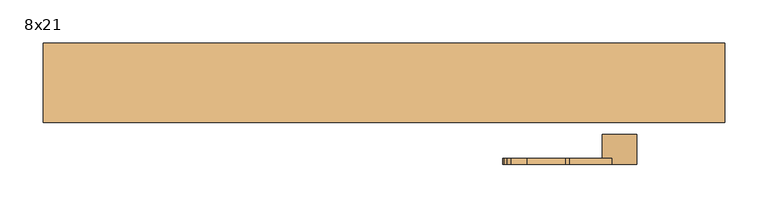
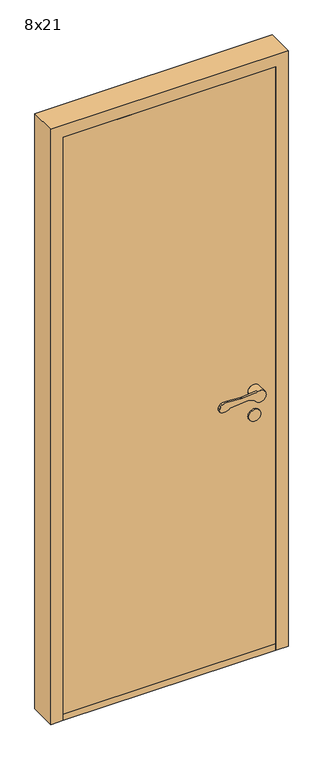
"""IFC4 building model written with IfcOpenShell, lengths in millimetres: door geometry, Innerdør Slett (Diplomat) : 8x21."""

from ifc_helpers import new_model, si_unit, point, frame, frame_2d, origin, origin_with_axes, place, context, project, spatial, polyline, circle_curve, trimmed, segment, composite_curve, outline, extrude, source, transform, mapped, element, save
from ifc_brep_helpers import plane_surface, cylinder_surface, revolved_surface, advanced_brep


def door_8x21_8e22e44c(model_context):
    return source(origin(), model_context, "Body", "SolidModel", [
        advanced_brep(
        [(293.9611305, 34.0, 949.1175955), (288.8520664, 34.0, 949.9496913), (226.0476109, 34.0, 943.6260011), (196.721536, 34.0, 938.7393398), (191.8691983, 34.0, 951.8913379), (195.505009, 34.0, 959.9624074), (200.3175669, 34.0, 964.8810513), (218.8963175, 34.0, 967.2639242), (263.6202158, 34.0, 964.1804415), (268.6891233, 34.0, 964.26032), (317.2687793, 34.0, 969.1517356), (346.379633, 34.0, 951.3474568), (308.3841161, 34.0, 942.6204086), (268.6891233, 26.8915284, 964.26032), (263.6202158, 26.8915284, 964.1804415), (218.8963175, 26.8915284, 967.2639242), (200.3175669, 26.8915284, 964.8810513), (195.505009, 26.8915284, 959.9624074), (191.8691983, 26.8915284, 951.8913379), (196.721536, 26.8915284, 938.7393398), (226.0476109, 26.8915284, 943.6260011), (288.8520664, 26.8915284, 949.9496913), (293.9611305, 26.8915284, 949.1175955), (308.3841161, 26.8915284, 942.6204086), (306.379633, 26.8915284, 951.3474568), (317.2687793, 26.8915284, 969.1517356), (346.379633, -1.0, 951.3474568), (306.379633, -1.0, 951.3474568)],
        [
            (0, 1, circle_curve(frame((289.8538865, 34.0, 940.0), z_axis=(0.0, -1.0, 0.0), x_axis=(-0.9949691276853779, 0.0, -0.10018200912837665)), 10.0)),
            (1, 2),
            (2, 3, circle_curve(frame((207.8569644, 34.0, 962.352734), z_axis=(0.0, 1.0, 0.0), x_axis=(-0.9949691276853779, 0.0, -0.10018200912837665)), 26.1072815)),
            (3, 4, circle_curve(frame((200.9867937, 34.0, 947.7840939), z_axis=(0.0, 1.0, 0.0), x_axis=(-0.9949691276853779, 0.0, -0.10018200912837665)), 10.0)),
            (4, 5),
            (5, 6, circle_curve(frame((204.6226045, 34.0, 955.8551634), z_axis=(0.0, 1.0, 0.0), x_axis=(-0.9949691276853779, 0.0, -0.10018200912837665)), 10.0)),
            (6, 7, circle_curve(frame((213.2326797, 34.0, 937.8033877), z_axis=(0.0, 1.0, 0.0), x_axis=(-0.9949691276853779, 0.0, -0.10018200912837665)), 30.0)),
            (7, 8),
            (8, 9, circle_curve(frame((265.683663, 34.0, 994.1093938), z_axis=(0.0, -1.0, 0.0), x_axis=(-0.9949691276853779, 0.0, -0.10018200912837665)), 30.0)),
            (9, 10),
            (10, 11, circle_curve(frame((326.379633, 34.0, 951.3474568), z_axis=(0.0, 1.0, 0.0), x_axis=(-1.0, 0.0, 0.0)), 20.0)),
            (11, 12, circle_curve(frame((326.379633, 34.0, 951.3474568), z_axis=(0.0, 1.0, 0.0), x_axis=(-1.0, 0.0, 0.0)), 20.0)),
            (12, 0),
            (13, 14, circle_curve(frame((265.683663, 26.8915284, 994.1093938), z_axis=(0.0, 1.0, 0.0), x_axis=(-0.9949691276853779, 0.0, -0.10018200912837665)), 30.0)),
            (14, 15),
            (15, 16, circle_curve(frame((213.2326797, 26.8915284, 937.8033877), z_axis=(0.0, -1.0, 0.0), x_axis=(-0.9949691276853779, 0.0, -0.10018200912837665)), 30.0)),
            (16, 17, circle_curve(frame((204.6226045, 26.8915284, 955.8551634), z_axis=(0.0, -1.0, 0.0), x_axis=(-0.9949691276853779, 0.0, -0.10018200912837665)), 10.0)),
            (17, 18),
            (18, 19, circle_curve(frame((200.9867937, 26.8915284, 947.7840939), z_axis=(0.0, -1.0, 0.0), x_axis=(-0.9949691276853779, 0.0, -0.10018200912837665)), 10.0)),
            (19, 20, circle_curve(frame((207.8569644, 26.8915284, 962.352734), z_axis=(0.0, -1.0, 0.0), x_axis=(-0.9949691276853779, 0.0, -0.10018200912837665)), 26.1072815)),
            (20, 21),
            (21, 22, circle_curve(frame((289.8538865, 26.8915284, 940.0), z_axis=(0.0, 1.0, 0.0), x_axis=(-0.9949691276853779, 0.0, -0.10018200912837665)), 10.0)),
            (22, 23),
            (23, 24, circle_curve(frame((326.379633, 26.8915284, 951.3474568), z_axis=(0.0, 1.0, 0.0), x_axis=(-1.0, 0.0, 0.0)), 20.0)),
            (24, 25, circle_curve(frame((326.379633, 26.8915284, 951.3474568), z_axis=(0.0, 1.0, 0.0), x_axis=(-1.0, 0.0, 0.0)), 20.0)),
            (25, 13),
            (9, 13),
            (25, 10),
            (22, 0),
            (12, 23),
            (21, 1),
            (20, 2),
            (19, 3),
            (18, 4),
            (17, 5),
            (16, 6),
            (15, 7),
            (14, 8),
            (26, 27, circle_curve(frame((326.379633, -1.0, 951.3474568), z_axis=(0.0, -1.0, 0.0), x_axis=(-1.0, 0.0, 0.0)), 20.0)),
            (27, 26, circle_curve(frame((326.379633, -1.0, 951.3474568), z_axis=(0.0, -1.0, 0.0), x_axis=(-1.0, 0.0, 0.0)), 20.0)),
            (27, 24),
            (11, 26),
        ],
        [
            plane_surface(frame((317.6960588, 34.0, 969.1947577), z_axis=(0.0, 1.0000000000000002, 0.0), x_axis=(0.9949691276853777, 0.0, 0.10018200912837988))),
            plane_surface(frame((317.6960588, 26.8915284, 969.1947577), z_axis=(0.0, -1.0000000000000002, 0.0), x_axis=(-0.9949691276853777, 0.0, -0.10018200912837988))),
            plane_surface(frame((268.6891233, 34.0, 964.26032), z_axis=(-0.10018200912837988, 0.0, 0.9949691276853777), x_axis=(0.0, -1.0, 0.0))),
            plane_surface(frame((326.9687366, 34.0, 934.2485115), z_axis=(-0.41072439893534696, 0.0, -0.91175954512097), x_axis=(0.0, -1.0, 0.0))),
            revolved_surface(polyline([(279.9041952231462, 26.8915284, 938.9981799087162), (279.9041952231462, 34.0, 938.9981799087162)]), (289.8538865, 26.8915284, 940.0), (0.0, -1.0, 0.0)),
            plane_surface(frame((288.8520664, 34.0, 949.9496913), z_axis=(0.10018200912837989, 0.0, -0.9949691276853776), x_axis=(0.0, -1.0, 0.0))),
            cylinder_surface(frame((207.8569644, 26.8915284, 962.352734), z_axis=(0.0, 1.0, 0.0), x_axis=(-0.9949691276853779, 0.0, -0.10018200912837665)), 26.1072815),
            cylinder_surface(frame((200.9867937, 26.8915284, 947.7840939), z_axis=(0.0, 1.0, 0.0), x_axis=(-0.9949691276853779, 0.0, -0.10018200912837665)), 10.0),
            plane_surface(frame((191.8691983, 34.0, 951.8913379), z_axis=(-0.9117595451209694, 0.0, 0.41072439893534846), x_axis=(0.0, -1.0, 0.0))),
            cylinder_surface(frame((204.6226045, 26.8915284, 955.8551634), z_axis=(0.0, 1.0, 0.0), x_axis=(-0.9949691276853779, 0.0, -0.10018200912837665)), 10.0),
            cylinder_surface(frame((213.2326797, 26.8915284, 937.8033877), z_axis=(0.0, 1.0, 0.0), x_axis=(-0.9949691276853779, 0.0, -0.10018200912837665)), 30.0),
            plane_surface(frame((218.8963175, 34.0, 967.2639242), z_axis=(0.06878157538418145, 0.0, 0.9976317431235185), x_axis=(0.0, -1.0, 0.0))),
            revolved_surface(polyline([(235.8345891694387, 26.8915284, 991.1039335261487), (235.8345891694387, 34.0, 991.1039335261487)]), (265.683663, 26.8915284, 994.1093938), (0.0, -1.0, 0.0)),
            plane_surface(frame((306.379633, -1.0, 951.3474568), z_axis=(0.0, -1.0, 0.0), x_axis=(0.0, 0.0, -1.0))),
            cylinder_surface(frame((326.379633, -1.0, 951.3474568), z_axis=(0.0, 1.0, 0.0), x_axis=(-1.0, 0.0, 0.0)), 20.0),
        ],
        [
            (0, [[1, 2, 3, 4, 5, 6, 7, 8, 9, 10, 11, 12, 13]]),
            (1, [[14, 15, 16, 17, 18, 19, 20, 21, 22, 23, 24, 25, 26]]),
            (2, [[27, -26, 28, -10]]),
            (3, [[29, -13, 30, -23]]),
            (4, [[-1, -29, -22, 31]]),
            (5, [[-2, -31, -21, 32]]),
            (6, [[-3, -32, -20, 33]]),
            (7, [[-4, -33, -19, 34]]),
            (8, [[-5, -34, -18, 35]]),
            (9, [[-6, -35, -17, 36]]),
            (10, [[-7, -36, -16, 37]]),
            (11, [[-8, -37, -15, 38]]),
            (12, [[-9, -38, -14, -27]]),
            (13, [[39, 40]]),
            (14, [[-40, 41, -24, -30, -12, 42]]),
            (14, [[-39, -42, -11, -28, -25, -41]]),
        ],
    ),
        extrude(outline(composite_curve([segment(trimmed(circle_curve(frame_2d((866.3474568, 326.379633)), 20.0), [point((866.3474568, 346.379633))], [point((866.3474568, 306.379633))], False, "CARTESIAN"), True, "CONTINUOUS"), segment(trimmed(circle_curve(frame_2d((866.3474568, 326.379633)), 20.0), [point((866.3474568, 306.379633))], [point((866.3474568, 346.379633))], False, "CARTESIAN"), True, "CONTINUOUS")], self_intersect=False)), frame((0.0, -1.0, 0.0), z_axis=(0.0, 1.0, 0.0), x_axis=(0.0, 0.0, 1.0)), (0.0, 0.0, 1.0), 5.0),
        advanced_brep(
        [(293.9611305, -100.0, 949.1175955), (308.3841161, -100.0, 942.6204086), (346.379633, -100.0, 951.3474568), (317.2687793, -100.0, 969.1517356), (268.6891233, -100.0, 964.26032), (263.6202158, -100.0, 964.1804415), (218.8963175, -100.0, 967.2639242), (200.3175669, -100.0, 964.8810513), (195.505009, -100.0, 959.9624074), (191.8691983, -100.0, 951.8913379), (196.721536, -100.0, 938.7393398), (226.0476109, -100.0, 943.6260011), (288.8520664, -100.0, 949.9496913), (268.6891233, -92.8915284, 964.26032), (317.2687793, -92.8915284, 969.1517356), (306.379633, -92.8915284, 951.3474568), (308.3841161, -92.8915284, 942.6204086), (293.9611305, -92.8915284, 949.1175955), (288.8520664, -92.8915284, 949.9496913), (226.0476109, -92.8915284, 943.6260011), (196.721536, -92.8915284, 938.7393398), (191.8691983, -92.8915284, 951.8913379), (195.505009, -92.8915284, 959.9624074), (200.3175669, -92.8915284, 964.8810513), (218.8963175, -92.8915284, 967.2639242), (263.6202158, -92.8915284, 964.1804415), (346.379633, -65.0, 951.3474568), (306.379633, -65.0, 951.3474568)],
        [
            (0, 1),
            (1, 2, circle_curve(frame((326.379633, -100.0, 951.3474568), z_axis=(0.0, -1.0, 0.0), x_axis=(-1.0, 0.0, 0.0)), 20.0)),
            (2, 3, circle_curve(frame((326.379633, -100.0, 951.3474568), z_axis=(0.0, -1.0, 0.0), x_axis=(-1.0, 0.0, 0.0)), 20.0)),
            (3, 4),
            (4, 5, circle_curve(frame((265.683663, -100.0, 994.1093938), z_axis=(0.0, 1.0, 0.0), x_axis=(-0.9949691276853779, 0.0, -0.10018200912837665)), 30.0)),
            (5, 6),
            (6, 7, circle_curve(frame((213.2326797, -100.0, 937.8033877), z_axis=(0.0, -1.0, 0.0), x_axis=(-0.9949691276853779, 0.0, -0.10018200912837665)), 30.0)),
            (7, 8, circle_curve(frame((204.6226045, -100.0, 955.8551634), z_axis=(0.0, -1.0, 0.0), x_axis=(-0.9949691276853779, 0.0, -0.10018200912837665)), 10.0)),
            (8, 9),
            (9, 10, circle_curve(frame((200.9867937, -100.0, 947.7840939), z_axis=(0.0, -1.0, 0.0), x_axis=(-0.9949691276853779, 0.0, -0.10018200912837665)), 10.0)),
            (10, 11, circle_curve(frame((207.8569644, -100.0, 962.352734), z_axis=(0.0, -1.0, 0.0), x_axis=(-0.9949691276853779, 0.0, -0.10018200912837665)), 26.1072815)),
            (11, 12),
            (12, 0, circle_curve(frame((289.8538865, -100.0, 940.0), z_axis=(0.0, 1.0, 0.0), x_axis=(-0.9949691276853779, 0.0, -0.10018200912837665)), 10.0)),
            (13, 14),
            (14, 15, circle_curve(frame((326.379633, -92.8915284, 951.3474568), z_axis=(0.0, -1.0, 0.0), x_axis=(-1.0, 0.0, 0.0)), 20.0)),
            (15, 16, circle_curve(frame((326.379633, -92.8915284, 951.3474568), z_axis=(0.0, -1.0, 0.0), x_axis=(-1.0, 0.0, 0.0)), 20.0)),
            (16, 17),
            (17, 18, circle_curve(frame((289.8538865, -92.8915284, 940.0), z_axis=(0.0, -1.0, 0.0), x_axis=(-0.9949691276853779, 0.0, -0.10018200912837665)), 10.0)),
            (18, 19),
            (19, 20, circle_curve(frame((207.8569644, -92.8915284, 962.352734), z_axis=(0.0, 1.0, 0.0), x_axis=(-0.9949691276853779, 0.0, -0.10018200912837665)), 26.1072815)),
            (20, 21, circle_curve(frame((200.9867937, -92.8915284, 947.7840939), z_axis=(0.0, 1.0, 0.0), x_axis=(-0.9949691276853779, 0.0, -0.10018200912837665)), 10.0)),
            (21, 22),
            (22, 23, circle_curve(frame((204.6226045, -92.8915284, 955.8551634), z_axis=(0.0, 1.0, 0.0), x_axis=(-0.9949691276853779, 0.0, -0.10018200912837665)), 10.0)),
            (23, 24, circle_curve(frame((213.2326797, -92.8915284, 937.8033877), z_axis=(0.0, 1.0, 0.0), x_axis=(-0.9949691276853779, 0.0, -0.10018200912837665)), 30.0)),
            (24, 25),
            (25, 13, circle_curve(frame((265.683663, -92.8915284, 994.1093938), z_axis=(0.0, -1.0, 0.0), x_axis=(-0.9949691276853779, 0.0, -0.10018200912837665)), 30.0)),
            (3, 14),
            (13, 4),
            (16, 1),
            (0, 17),
            (12, 18),
            (11, 19),
            (10, 20),
            (9, 21),
            (8, 22),
            (7, 23),
            (6, 24),
            (5, 25),
            (26, 27, circle_curve(frame((326.379633, -65.0, 951.3474568), z_axis=(0.0, 1.0, 0.0), x_axis=(-1.0, 0.0, 0.0)), 20.0)),
            (27, 26, circle_curve(frame((326.379633, -65.0, 951.3474568), z_axis=(0.0, 1.0, 0.0), x_axis=(-1.0, 0.0, 0.0)), 20.0)),
            (26, 2),
            (15, 27),
        ],
        [
            plane_surface(frame((317.6960588, -100.0, 969.1947577), z_axis=(0.0, -1.0000000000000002, 0.0), x_axis=(0.9949691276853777, 0.0, 0.10018200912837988))),
            plane_surface(frame((317.6960588, -92.8915284, 969.1947577), z_axis=(0.0, 1.0000000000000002, 0.0), x_axis=(-0.9949691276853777, 0.0, -0.10018200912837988))),
            plane_surface(frame((268.6891233, -100.0, 964.26032), z_axis=(-0.10018200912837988, 0.0, 0.9949691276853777), x_axis=(0.0, 1.0, 0.0))),
            plane_surface(frame((326.9687366, -100.0, 934.2485115), z_axis=(-0.41072439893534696, 0.0, -0.91175954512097), x_axis=(0.0, 1.0, 0.0))),
            revolved_surface(polyline([(279.9041952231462, -92.8915284, 938.9981799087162), (279.9041952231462, -100.0, 938.9981799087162)]), (289.8538865, -92.8915284, 940.0), (0.0, 1.0, 0.0)),
            plane_surface(frame((288.8520664, -100.0, 949.9496913), z_axis=(0.10018200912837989, 0.0, -0.9949691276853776), x_axis=(0.0, 1.0, 0.0))),
            cylinder_surface(frame((207.8569644, -92.8915284, 962.352734), z_axis=(0.0, -1.0, 0.0), x_axis=(-0.9949691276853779, 0.0, -0.10018200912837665)), 26.1072815),
            cylinder_surface(frame((200.9867937, -92.8915284, 947.7840939), z_axis=(0.0, -1.0, 0.0), x_axis=(-0.9949691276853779, 0.0, -0.10018200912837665)), 10.0),
            plane_surface(frame((191.8691983, -100.0, 951.8913379), z_axis=(-0.9117595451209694, 0.0, 0.41072439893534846), x_axis=(0.0, 1.0, 0.0))),
            cylinder_surface(frame((204.6226045, -92.8915284, 955.8551634), z_axis=(0.0, -1.0, 0.0), x_axis=(-0.9949691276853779, 0.0, -0.10018200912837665)), 10.0),
            cylinder_surface(frame((213.2326797, -92.8915284, 937.8033877), z_axis=(0.0, -1.0, 0.0), x_axis=(-0.9949691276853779, 0.0, -0.10018200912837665)), 30.0),
            plane_surface(frame((218.8963175, -100.0, 967.2639242), z_axis=(0.06878157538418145, 0.0, 0.9976317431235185), x_axis=(0.0, 1.0, 0.0))),
            revolved_surface(polyline([(235.8345891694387, -92.8915284, 991.1039335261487), (235.8345891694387, -100.0, 991.1039335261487)]), (265.683663, -92.8915284, 994.1093938), (0.0, 1.0, 0.0)),
            plane_surface(frame((306.379633, -65.0, 951.3474568), z_axis=(0.0, 1.0, 0.0), x_axis=(0.0, 0.0, -1.0))),
            cylinder_surface(frame((326.379633, -65.0, 951.3474568), z_axis=(0.0, -1.0, 0.0), x_axis=(-1.0, 0.0, 0.0)), 20.0),
        ],
        [
            (0, [[1, 2, 3, 4, 5, 6, 7, 8, 9, 10, 11, 12, 13]]),
            (1, [[14, 15, 16, 17, 18, 19, 20, 21, 22, 23, 24, 25, 26]]),
            (2, [[-4, 27, -14, 28]]),
            (3, [[-17, 29, -1, 30]]),
            (4, [[31, -18, -30, -13]]),
            (5, [[32, -19, -31, -12]]),
            (6, [[33, -20, -32, -11]]),
            (7, [[34, -21, -33, -10]]),
            (8, [[35, -22, -34, -9]]),
            (9, [[36, -23, -35, -8]]),
            (10, [[37, -24, -36, -7]]),
            (11, [[38, -25, -37, -6]]),
            (12, [[-28, -26, -38, -5]]),
            (13, [[39, 40]]),
            (14, [[41, -2, -29, -16, 42, -39]]),
            (14, [[-42, -15, -27, -3, -41, -40]]),
        ],
    ),
        extrude(outline(composite_curve([segment(trimmed(circle_curve(frame_2d((866.3474568, 326.379633)), 20.0), [point((866.3474568, 346.379633))], [point((866.3474568, 306.379633))], False, "CARTESIAN"), True, "CONTINUOUS"), segment(trimmed(circle_curve(frame_2d((866.3474568, 326.379633)), 20.0), [point((866.3474568, 306.379633))], [point((866.3474568, 346.379633))], False, "CARTESIAN"), True, "CONTINUOUS")], self_intersect=False)), frame((0.0, -70.0, 0.0), z_axis=(0.0, 1.0, 0.0), x_axis=(0.0, 0.0, 1.0)), (0.0, 0.0, 1.0), 5.0),
        extrude(outline(polyline([(406.379633, 41.0), (406.379633, -51.0), (-299.620367, -51.0), (-299.620367, 41.0), (406.379633, 41.0)])), origin_with_axes(), (0.0, 0.0, 1.0), 22.0),
        extrude(outline(polyline([(406.379633, -1.0), (406.379633, -51.0), (-299.620367, -51.0), (-299.620367, -1.0), (406.379633, -1.0)])), frame((0.0, 0.0, 22.0), z_axis=(0.0, 0.0, 1.0), x_axis=(1.0, 0.0, 0.0)), (0.0, 0.0, 1.0), 2031.0),
        extrude(outline(polyline([(0.0, -299.620367), (2053.0, -299.620367), (2053.0, 406.379633), (0.0, 406.379633), (0.0, 448.379633), (2095.0, 448.379633), (2095.0, -341.620367), (0.0, -341.620367), (0.0, -299.620367)])), frame((0.0, -51.0, 0.0), z_axis=(0.0, 1.0, 0.0), x_axis=(0.0, 0.0, 1.0)), (0.0, 0.0, 1.0), 92.0),
    ])


if __name__ == "__main__":
    model = new_model("IFC4")
    model_context = context("Model", 3, world=origin())
    ifc_project = project(units=[si_unit("LENGTHUNIT", "METRE", prefix="MILLI")], contexts=[model_context])
    site = spatial("IfcSite", under=ifc_project)
    building = spatial("IfcBuilding", under=site)
    placement = place(None, origin())
    door_8x21_shape = door_8x21_8e22e44c(model_context)
    element("IfcDoor", 1, ObjectType="Innerdør Slett (Diplomat) : 8x21", at=placement, inside=building, context=model_context, shape_type="MappedRepresentation", body=[
        mapped(door_8x21_shape, transform((0.0, 0.0, 0.0), x_axis=(1.0, 0.0, 0.0), y_axis=(0.0, 1.0, 0.0), z_axis=(0.0, 0.0, 1.0))),
    ])
    save(model, "model.ifc")
